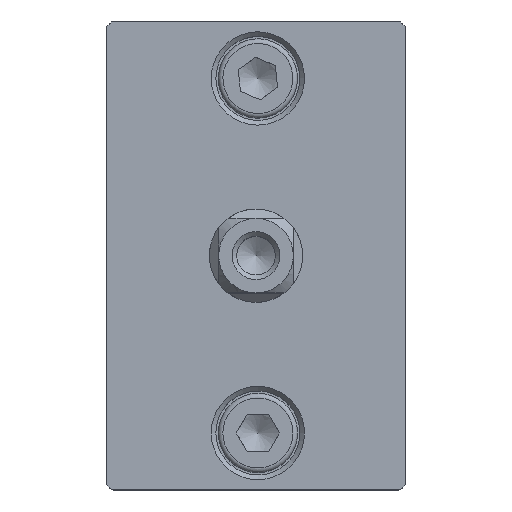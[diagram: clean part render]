
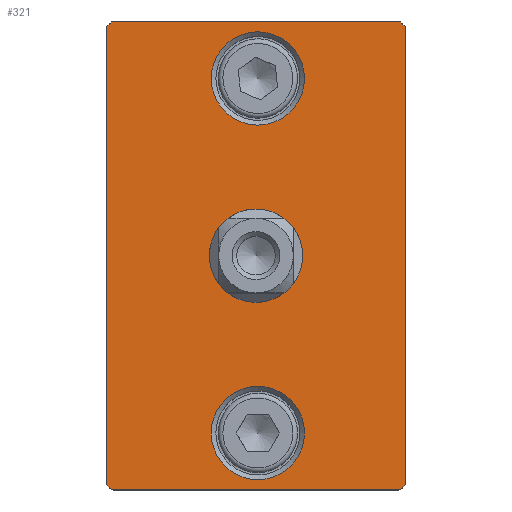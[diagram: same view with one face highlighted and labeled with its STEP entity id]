
A CAD part, top view. The second image highlights one B-rep face of the part: STEP entity #321.
In plain terms, the highlighted planar face has unit normal (0, 0, 1).
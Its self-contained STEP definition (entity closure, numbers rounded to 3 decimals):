
#156=CARTESIAN_POINT('',(-11.983,24.55,14.));
#157=VERTEX_POINT('',#156);
#158=CARTESIAN_POINT('',(-11.483,25.05,14.));
#159=VERTEX_POINT('',#158);
#160=CARTESIAN_POINT('',(-11.983,24.55,14.));
#161=DIRECTION('',(0.707,0.707,0.0));
#162=VECTOR('',#161,0.707);
#163=LINE('',#160,#162);
#164=EDGE_CURVE('',#157,#159,#163,.T.);
#199=CARTESIAN_POINT('',(4.017,0.,14.));
#200=DIRECTION('',(0.0,0.0,1.0));
#201=DIRECTION('',(1.0,0.0,0.0));
#202=AXIS2_PLACEMENT_3D('',#199,#200,#201);
#203=PLANE('',#202);
#204=ORIENTED_EDGE('',*,*,#164,.F.);
#205=CARTESIAN_POINT('',(-11.983,-24.55,14.));
#206=VERTEX_POINT('',#205);
#207=CARTESIAN_POINT('',(-11.983,-24.55,14.));
#208=DIRECTION('',(0.0,1.0,0.0));
#209=VECTOR('',#208,49.1);
#210=LINE('',#207,#209);
#211=EDGE_CURVE('',#206,#157,#210,.T.);
#212=ORIENTED_EDGE('',*,*,#211,.F.);
#213=CARTESIAN_POINT('',(-11.483,-25.05,14.));
#214=VERTEX_POINT('',#213);
#215=CARTESIAN_POINT('',(-11.483,-25.05,14.));
#216=DIRECTION('',(-0.707,0.707,0.0));
#217=VECTOR('',#216,0.707);
#218=LINE('',#215,#217);
#219=EDGE_CURVE('',#214,#206,#218,.T.);
#220=ORIENTED_EDGE('',*,*,#219,.F.);
#221=CARTESIAN_POINT('',(19.517,-25.05,14.));
#222=VERTEX_POINT('',#221);
#223=CARTESIAN_POINT('',(19.517,-25.05,14.));
#224=DIRECTION('',(-1.0,0.0,0.0));
#225=VECTOR('',#224,31.);
#226=LINE('',#223,#225);
#227=EDGE_CURVE('',#222,#214,#226,.T.);
#228=ORIENTED_EDGE('',*,*,#227,.F.);
#229=CARTESIAN_POINT('',(20.017,-24.55,14.));
#230=VERTEX_POINT('',#229);
#231=CARTESIAN_POINT('',(20.017,-24.55,14.));
#232=DIRECTION('',(-0.707,-0.707,0.0));
#233=VECTOR('',#232,0.707);
#234=LINE('',#231,#233);
#235=EDGE_CURVE('',#230,#222,#234,.T.);
#236=ORIENTED_EDGE('',*,*,#235,.F.);
#237=CARTESIAN_POINT('',(20.017,24.55,14.));
#238=VERTEX_POINT('',#237);
#239=CARTESIAN_POINT('',(20.017,24.55,14.));
#240=DIRECTION('',(0.0,-1.0,0.0));
#241=VECTOR('',#240,49.1);
#242=LINE('',#239,#241);
#243=EDGE_CURVE('',#238,#230,#242,.T.);
#244=ORIENTED_EDGE('',*,*,#243,.F.);
#245=CARTESIAN_POINT('',(19.517,25.05,14.));
#246=VERTEX_POINT('',#245);
#247=CARTESIAN_POINT('',(19.517,25.05,14.));
#248=DIRECTION('',(0.707,-0.707,0.0));
#249=VECTOR('',#248,0.707);
#250=LINE('',#247,#249);
#251=EDGE_CURVE('',#246,#238,#250,.T.);
#252=ORIENTED_EDGE('',*,*,#251,.F.);
#253=CARTESIAN_POINT('',(-11.483,25.05,14.));
#254=DIRECTION('',(1.0,0.0,0.0));
#255=VECTOR('',#254,31.);
#256=LINE('',#253,#255);
#257=EDGE_CURVE('',#159,#246,#256,.T.);
#258=ORIENTED_EDGE('',*,*,#257,.F.);
#259=EDGE_LOOP('',(#204,#212,#220,#228,#236,#244,#252,#258));
#260=FACE_OUTER_BOUND('',#259,.T.);
#261=CARTESIAN_POINT('',(9.217,19.0,14.));
#262=VERTEX_POINT('',#261);
#263=CARTESIAN_POINT('',(4.217,19.0,14.));
#264=DIRECTION('',(0.0,0.0,1.0));
#265=DIRECTION('',(-1.0,0.0,0.0));
#266=AXIS2_PLACEMENT_3D('',#263,#264,#265);
#267=CIRCLE('',#266,5.0);
#268=EDGE_CURVE('',#262,#262,#267,.T.);
#269=ORIENTED_EDGE('',*,*,#268,.F.);
#270=EDGE_LOOP('',(#269));
#271=FACE_BOUND('',#270,.T.);
#272=CARTESIAN_POINT('',(4.017,5.0,14.));
#273=VERTEX_POINT('',#272);
#274=CARTESIAN_POINT('',(9.017,0.,14.));
#275=VERTEX_POINT('',#274);
#276=CARTESIAN_POINT('',(4.017,0.0,14.));
#277=DIRECTION('',(0.0,0.0,-1.0));
#278=DIRECTION('',(0.0,1.0,0.0));
#279=AXIS2_PLACEMENT_3D('',#276,#277,#278);
#280=CIRCLE('',#279,5.0);
#281=EDGE_CURVE('',#273,#275,#280,.T.);
#282=ORIENTED_EDGE('',*,*,#281,.T.);
#283=CARTESIAN_POINT('',(4.017,-5.,14.));
#284=VERTEX_POINT('',#283);
#285=CARTESIAN_POINT('',(4.017,0.0,14.));
#286=DIRECTION('',(0.0,0.0,-1.0));
#287=DIRECTION('',(0.0,1.0,0.0));
#288=AXIS2_PLACEMENT_3D('',#285,#286,#287);
#289=CIRCLE('',#288,5.0);
#290=EDGE_CURVE('',#275,#284,#289,.T.);
#291=ORIENTED_EDGE('',*,*,#290,.T.);
#292=CARTESIAN_POINT('',(-0.983,0.,14.));
#293=VERTEX_POINT('',#292);
#294=CARTESIAN_POINT('',(4.017,0.0,14.));
#295=DIRECTION('',(0.0,0.0,-1.0));
#296=DIRECTION('',(0.0,1.0,0.0));
#297=AXIS2_PLACEMENT_3D('',#294,#295,#296);
#298=CIRCLE('',#297,5.0);
#299=EDGE_CURVE('',#284,#293,#298,.T.);
#300=ORIENTED_EDGE('',*,*,#299,.T.);
#301=CARTESIAN_POINT('',(4.017,0.0,14.));
#302=DIRECTION('',(0.0,0.0,-1.0));
#303=DIRECTION('',(0.0,1.0,0.0));
#304=AXIS2_PLACEMENT_3D('',#301,#302,#303);
#305=CIRCLE('',#304,5.0);
#306=EDGE_CURVE('',#293,#273,#305,.T.);
#307=ORIENTED_EDGE('',*,*,#306,.T.);
#308=EDGE_LOOP('',(#282,#291,#300,#307));
#309=FACE_BOUND('',#308,.T.);
#310=CARTESIAN_POINT('',(9.217,-19.0,14.));
#311=VERTEX_POINT('',#310);
#312=CARTESIAN_POINT('',(4.217,-19.0,14.));
#313=DIRECTION('',(0.0,0.0,1.0));
#314=DIRECTION('',(-1.0,0.0,0.0));
#315=AXIS2_PLACEMENT_3D('',#312,#313,#314);
#316=CIRCLE('',#315,5.0);
#317=EDGE_CURVE('',#311,#311,#316,.T.);
#318=ORIENTED_EDGE('',*,*,#317,.F.);
#319=EDGE_LOOP('',(#318));
#320=FACE_BOUND('',#319,.T.);
#321=ADVANCED_FACE('',(#260,#271,#309,#320),#203,.T.);
